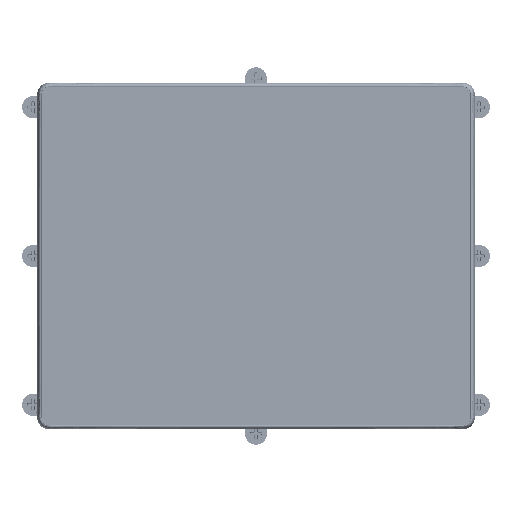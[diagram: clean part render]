
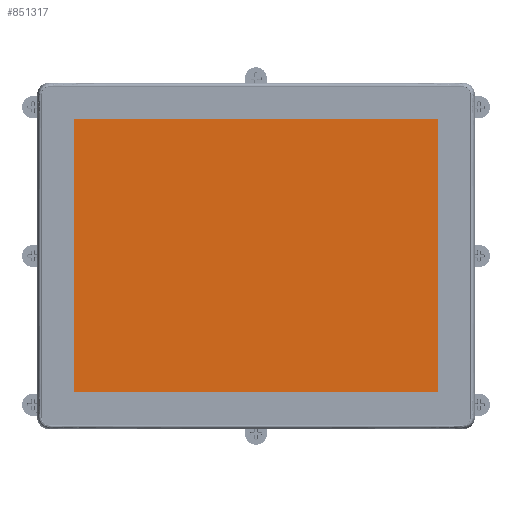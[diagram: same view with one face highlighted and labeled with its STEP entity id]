
A CAD part, top view. The second image highlights one B-rep face of the part: STEP entity #851317.
In plain terms, the highlighted planar face has unit normal (0, 0, 1).
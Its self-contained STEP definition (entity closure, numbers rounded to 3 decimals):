
#252129=DIRECTION('',(0.,-1.,0.));
#252130=VECTOR('',#252129,185.32);
#252131=CARTESIAN_POINT('',(-123.38,92.66,4.79));
#252132=LINE('',#252131,#252130);
#252149=DIRECTION('',(-1.,0.,0.));
#252150=VECTOR('',#252149,246.76);
#252151=CARTESIAN_POINT('',(123.38,92.66,4.79));
#252152=LINE('',#252151,#252150);
#252157=DIRECTION('',(0.,1.,0.));
#252158=VECTOR('',#252157,185.32);
#252159=CARTESIAN_POINT('',(123.38,-92.66,4.79));
#252160=LINE('',#252159,#252158);
#252169=DIRECTION('',(1.,0.,0.));
#252170=VECTOR('',#252169,246.76);
#252171=CARTESIAN_POINT('',(-123.38,-92.66,4.79));
#252172=LINE('',#252171,#252170);
#427204=CARTESIAN_POINT('',(-123.38,92.66,4.79));
#427206=VERTEX_POINT('',#427204);
#427209=CARTESIAN_POINT('',(-123.38,-92.66,4.79));
#427211=VERTEX_POINT('',#427209);
#427213=CARTESIAN_POINT('',(123.38,-92.66,4.79));
#427215=VERTEX_POINT('',#427213);
#427217=CARTESIAN_POINT('',(123.38,92.66,4.79));
#427219=VERTEX_POINT('',#427217);
#851306=CARTESIAN_POINT('',(0.,0.,4.79));
#851307=DIRECTION('',(0.,0.,1.));
#851308=DIRECTION('',(1.,0.,0.));
#851309=AXIS2_PLACEMENT_3D('',#851306,#851307,#851308);
#851310=PLANE('',#851309);
#851311=ORIENTED_EDGE('',*,*,#851229,.F.);
#851312=ORIENTED_EDGE('',*,*,#851253,.F.);
#851313=ORIENTED_EDGE('',*,*,#851272,.F.);
#851314=ORIENTED_EDGE('',*,*,#851292,.F.);
#851315=EDGE_LOOP('',(#851311,#851312,#851313,#851314));
#851316=FACE_OUTER_BOUND('',#851315,.F.);
#851317=ADVANCED_FACE('',(#851316),#851310,.T.);
#851229=EDGE_CURVE('',#427206,#427211,#252132,.T.);
#851253=EDGE_CURVE('',#427219,#427206,#252152,.T.);
#851272=EDGE_CURVE('',#427215,#427219,#252160,.T.);
#851292=EDGE_CURVE('',#427211,#427215,#252172,.T.);
